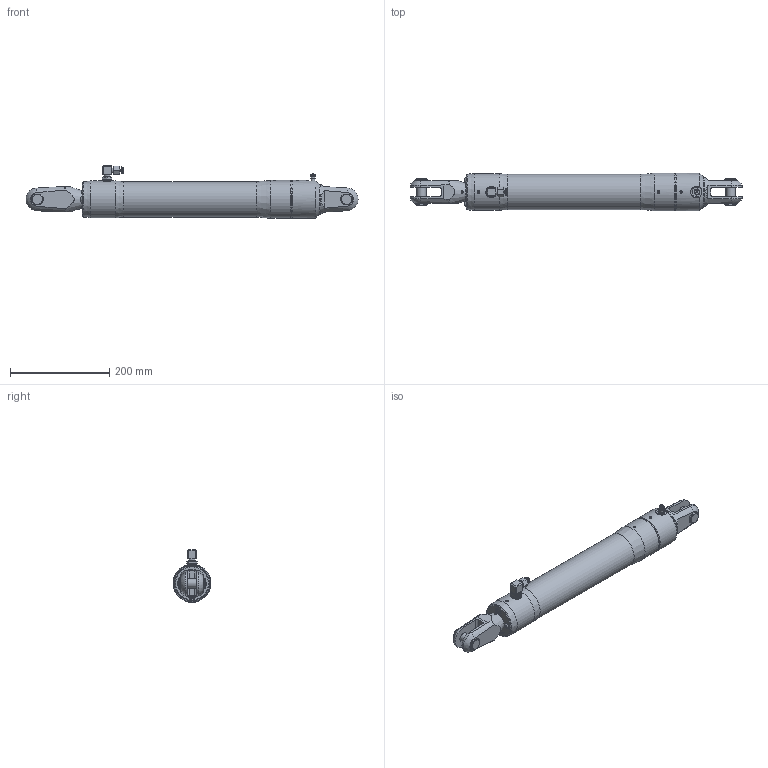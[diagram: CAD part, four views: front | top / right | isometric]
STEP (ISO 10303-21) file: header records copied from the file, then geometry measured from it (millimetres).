
FILE_DESCRIPTION(/* description */ (''),/* implementation_level */ '2;1');
FILE_NAME(/* name */ 'Q:\AA BRAND HYDRAULICS\HYDRAULICS FAMILY DIRECTORY\HYDRAULICS\CYLINDERS\RAMS\STAINLESS - STANDARD SINGLE ACTING (-0006 To -0260)\RSS-0022-S0275-NP-71\RSS-0022-S0275-NP-71 (Closed).stp',/* time_stamp */ '2018-02-07T13:45:05+00:00',/* author */ ('Lorena'),/* organization */ (''),/* preprocessor_version */ 'ST-DEVELOPER v17',/* originating_system */ 'Autodesk Inventor 2018',/* authorisation */ '');
FILE_SCHEMA (('AUTOMOTIVE_DESIGN { 1 0 10303 214 3 1 1 }'));
Length unit declared in the file: millimetre
Products named in the file (1): RSS-0022-S0275-NP-71 (Closed)
Bounding box: 668.68 x 76.2 x 106 mm (x, y, z)
Volume: 2265734.9 mm3; surface area: 163289.8 mm2
Topology: 2 solids, 6 shells, 1773 faces, 4775 edges, 3161 vertices
Faces by surface type: plane 1001, bspline 574, cone 108, cylinder 82, sphere 4, torus 4
Full cylindrical faces by diameter (mm): 4 x1, 4.2 x2, 4.4 x1, 5 x2, 5.1 x1, 6 x2, 6.5 x2, 7 x1, 9 x1, 10 x2, 11.11 x1, 11.157 x1, 11.5 x1, 11.8 x1, 12 x3, 12.157 x1, 13 x1, 13.157 x2, 14.5 x2, 18.3 x3, 19.05 x2, 20 x1, 22 x2, 23.812 x2, 69.6 x1, 71.2 x1, 74.2 x1, 75.2 x1, 76.2 x2
Entity records: 63050 total; most frequent: CARTESIAN_POINT 20821, ORIENTED_EDGE 9532, DIRECTION 6259, EDGE_CURVE 4766, VERTEX_POINT 3162, LINE 2955, VECTOR 2955, EDGE_LOOP 1942
